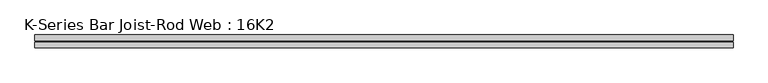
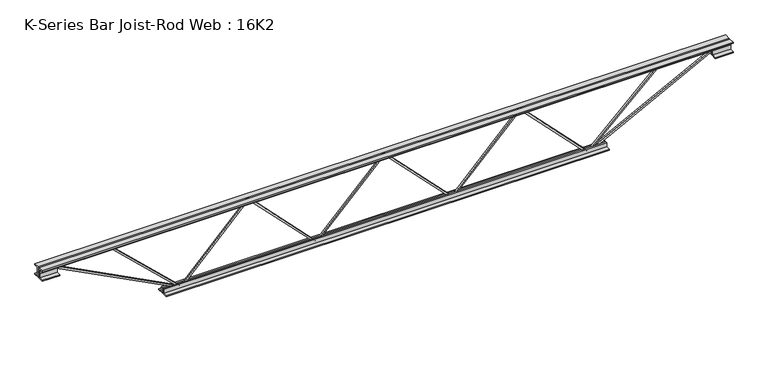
"""IFC4 building model written with IfcOpenShell, lengths in millimetres: beam geometry, K-Series Bar Joist-Rod Web : 16K2."""

from ifc_helpers import new_model, si_unit, frame, origin, place, context, project, spatial, polyline, outline, extrude, source, transform, mapped, element, save


def k_series_bar_joist_rod_web_16k2_991e5e47(model_context):
    return source(origin(), model_context, "Body", "SweptSolid", [
        extrude(outline(polyline([(-192.0875, -389.4666667), (-201.6125, -389.4666667), (-201.6125, -384.2808605), (192.0875, -1.1641939), (192.0875, 1.1641939), (-201.6125, 384.2808605), (-201.6125, 389.4666667), (-192.0875, 389.4666667), (-192.0875, 388.3024728), (201.6125, 5.1858061), (201.6125, -5.1858061), (-192.0875, -388.3024728), (-192.0875, -389.4666667)])), frame((0.0, -4.7625, 0.0), z_axis=(0.0, 1.0, 0.0), x_axis=(0.0, 0.0, 1.0)), (0.0, 0.0, 1.0), 9.525),
        extrude(outline(polyline([(-192.0875, 389.4666667), (-201.6125, 389.4666667), (-201.6125, 394.6524728), (192.0875, 777.7691395), (192.0875, 780.0975272), (-201.6125, 1163.2141939), (-201.6125, 1168.4), (-192.0875, 1168.4), (-192.0875, 1167.2358061), (201.6125, 784.1191395), (201.6125, 773.7475272), (-192.0875, 390.6308605), (-192.0875, 389.4666667)])), frame((0.0, -4.7625, 0.0), z_axis=(0.0, 1.0, 0.0), x_axis=(0.0, 0.0, 1.0)), (0.0, 0.0, 1.0), 9.525),
        extrude(outline(polyline([(-192.0875, -1168.4), (-201.6125, -1168.4), (-201.6125, -1163.2141939), (192.0875, -780.0975272), (192.0875, -777.7691395), (-201.6125, -394.6524728), (-201.6125, -389.4666667), (-192.0875, -389.4666667), (-192.0875, -390.6308605), (201.6125, -773.7475272), (201.6125, -784.1191395), (-192.0875, -1167.2358061), (-192.0875, -1168.4)])), frame((0.0, -4.7625, 0.0), z_axis=(0.0, 1.0, 0.0), x_axis=(0.0, 0.0, 1.0)), (0.0, 0.0, 1.0), 9.525),
        extrude(outline(polyline([(4.7625, 203.2), (36.5125, 203.2), (36.5125, 196.85), (11.1125, 196.85), (11.1125, 171.45), (4.7625, 171.45), (4.7625, 203.2)])), frame((-1981.2, 0.0, 0.0), z_axis=(1.0, 0.0, 0.0), x_axis=(0.0, 1.0, 0.0)), (0.0, 0.0, 1.0), 3962.4),
        extrude(outline(polyline([(-4.7625, 203.2), (-4.7625, 171.45), (-11.1125, 171.45), (-11.1125, 196.85), (-36.5125, 196.85), (-36.5125, 203.2), (-4.7625, 203.2)])), frame((-1981.2, 0.0, 0.0), z_axis=(1.0, 0.0, 0.0), x_axis=(0.0, 1.0, 0.0)), (0.0, 0.0, 1.0), 3962.4),
        extrude(outline(polyline([(-4.7625, 139.7), (-36.5125, 139.7), (-36.5125, 146.05), (-11.1125, 146.05), (-11.1125, 171.45), (-4.7625, 171.45), (-4.7625, 139.7)])), frame((-1981.2, 0.0, 0.0), z_axis=(1.0, 0.0, 0.0), x_axis=(0.0, 1.0, 0.0)), (0.0, 0.0, 1.0), 101.6),
        extrude(outline(polyline([(36.5125, 139.7), (4.7625, 139.7), (4.7625, 171.45), (11.1125, 171.45), (11.1125, 146.05), (36.5125, 146.05), (36.5125, 139.7)])), frame((-1981.2, 0.0, 0.0), z_axis=(1.0, 0.0, 0.0), x_axis=(0.0, 1.0, 0.0)), (0.0, 0.0, 1.0), 101.6),
        extrude(outline(polyline([(4.7625, 139.7), (4.7625, 171.45), (11.1125, 171.45), (11.1125, 146.05), (36.5125, 146.05), (36.5125, 139.7), (4.7625, 139.7)])), frame((1879.6, 0.0, 0.0), z_axis=(1.0, 0.0, 0.0), x_axis=(0.0, 1.0, 0.0)), (0.0, 0.0, 1.0), 101.6),
        extrude(outline(polyline([(-4.7625, 139.7), (-36.5125, 139.7), (-36.5125, 146.05), (-11.1125, 146.05), (-11.1125, 171.45), (-4.7625, 171.45), (-4.7625, 139.7)])), frame((1879.6, 0.0, 0.0), z_axis=(1.0, 0.0, 0.0), x_axis=(0.0, 1.0, 0.0)), (0.0, 0.0, 1.0), 101.6),
        extrude(outline(polyline([(4.7625, -203.2), (4.7625, -171.45), (11.1125, -171.45), (11.1125, -196.85), (36.5125, -196.85), (36.5125, -203.2), (4.7625, -203.2)])), frame((-1270.0, 0.0, 0.0), z_axis=(1.0, 0.0, 0.0), x_axis=(0.0, 1.0, 0.0)), (0.0, 0.0, 1.0), 2540.0),
        extrude(outline(polyline([(-4.7625, -203.2), (-36.5125, -203.2), (-36.5125, -196.85), (-11.1125, -196.85), (-11.1125, -171.45), (-4.7625, -171.45), (-4.7625, -203.2)])), frame((-1270.0, 0.0, 0.0), z_axis=(1.0, 0.0, 0.0), x_axis=(0.0, 1.0, 0.0)), (0.0, 0.0, 1.0), 2540.0),
        extrude(outline(polyline([(0.0, -9.525), (0.0, 0.0), (800.9059433, 0.0), (800.9059433, -9.525), (0.0, -9.525)])), frame((-1881.7900559, 4.7625, 167.2209266), z_axis=(0.4598542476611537, 0.0, 0.8879944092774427), x_axis=(0.8879944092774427, 0.0, -0.4598542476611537)), (0.0, 0.0, 1.0), 9.525),
        extrude(outline(polyline([(0.0, -9.525), (0.0, 0.0), (536.0309454, 0.0), (536.0309454, -9.525), (0.0, -9.525)])), frame((-1561.1389194, 4.7625, 167.9896867), z_axis=(0.6870871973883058, 0.0, 0.7265749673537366), x_axis=(0.7265749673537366, 0.0, -0.6870871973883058)), (0.0, 0.0, 1.0), 9.525),
        extrude(outline(polyline([(0.0, -9.525), (0.0, 0.0), (800.9059433, 0.0), (800.9059433, -9.525), (0.0, -9.525)])), frame((1881.7900559, -4.7625, 167.2209266), z_axis=(-0.4598542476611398, 0.0, 0.8879944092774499), x_axis=(-0.8879944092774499, 0.0, -0.4598542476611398)), (0.0, 0.0, 1.0), 9.525),
        extrude(outline(polyline([(0.0, -9.525), (0.0, 0.0), (536.0309454, 0.0), (536.0309454, -9.525), (0.0, -9.525)])), frame((1561.1389194, -4.7625, 167.9896867), z_axis=(-0.6870871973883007, 0.0, 0.7265749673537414), x_axis=(-0.7265749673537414, 0.0, -0.6870871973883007)), (0.0, 0.0, 1.0), 9.525),
    ])


if __name__ == "__main__":
    model = new_model("IFC4")
    model_context = context("Model", 3, world=origin())
    ifc_project = project(units=[si_unit("LENGTHUNIT", "METRE", prefix="MILLI")], contexts=[model_context])
    site = spatial("IfcSite", under=ifc_project)
    building = spatial("IfcBuilding", under=site)
    placement = place(None, origin())
    k_series_bar_joist_rod_web_16k2_shape = k_series_bar_joist_rod_web_16k2_991e5e47(model_context)
    element("IfcBeam", 1, ObjectType="K-Series Bar Joist-Rod Web : 16K2", at=placement, inside=building, context=model_context, shape_type="MappedRepresentation", body=[
        mapped(k_series_bar_joist_rod_web_16k2_shape, transform((0.0, 0.0, 0.0), x_axis=(1.0, 0.0, 0.0), y_axis=(0.0, 1.0, 0.0), z_axis=(0.0, 0.0, 1.0))),
    ])
    save(model, "model.ifc")
